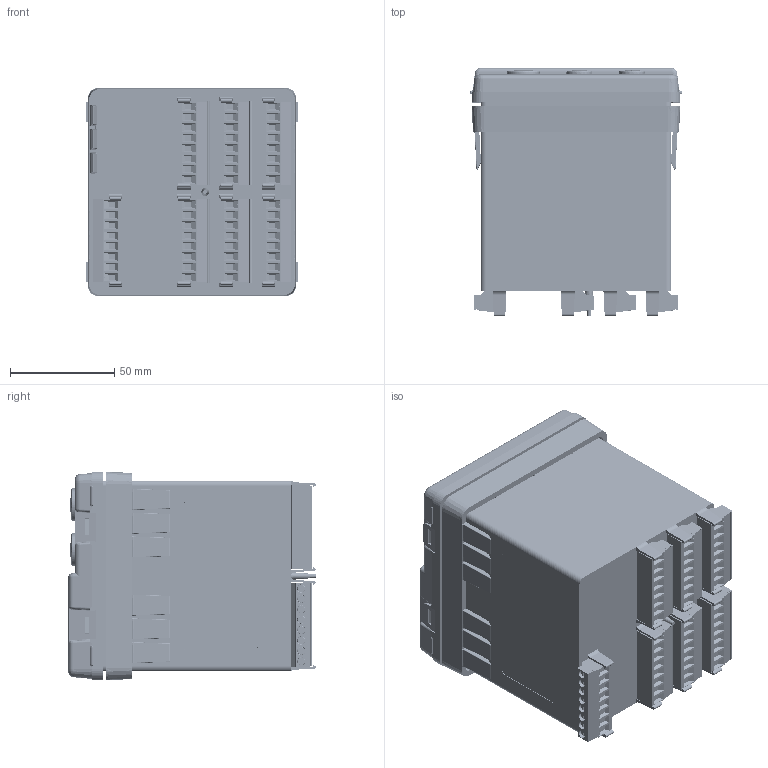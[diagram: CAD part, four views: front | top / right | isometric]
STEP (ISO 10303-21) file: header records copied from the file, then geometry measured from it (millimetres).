
FILE_DESCRIPTION (( 'STEP AP214' ), '1' );
FILE_NAME ('PM4XXXX-XXXXXXX STEP.STEP', '2009-10-17T17:20:06', ( ' ' ), ( ' ' ), 'SwSTEP 2.0', 'SolidWorks 2008', '' );
FILE_SCHEMA (( 'AUTOMOTIVE_DESIGN' ));
Length unit declared in the file: inch
Products named in the file (1): PM4XXXX-XXXXXXX STEP
Bounding box: 101.85 x 118.92 x 100.33 mm (x, y, z)
Volume: 994511 mm3; surface area: 167735.5 mm2
Topology: 82 solids, 86 shells, 7246 faces, 18315 edges, 11782 vertices
Faces by surface type: plane 4226, cylinder 1547, bspline 946, cone 463, torus 32, sphere 32
Entity records: 357778 total; most frequent: CARTESIAN_POINT 97772, ORIENTED_EDGE 36518, DIRECTION 29778, EDGE_CURVE 18259, LINE 11762, VECTOR 11762, VERTEX_POINT 11758, AXIS2_PLACEMENT_3D 9008
